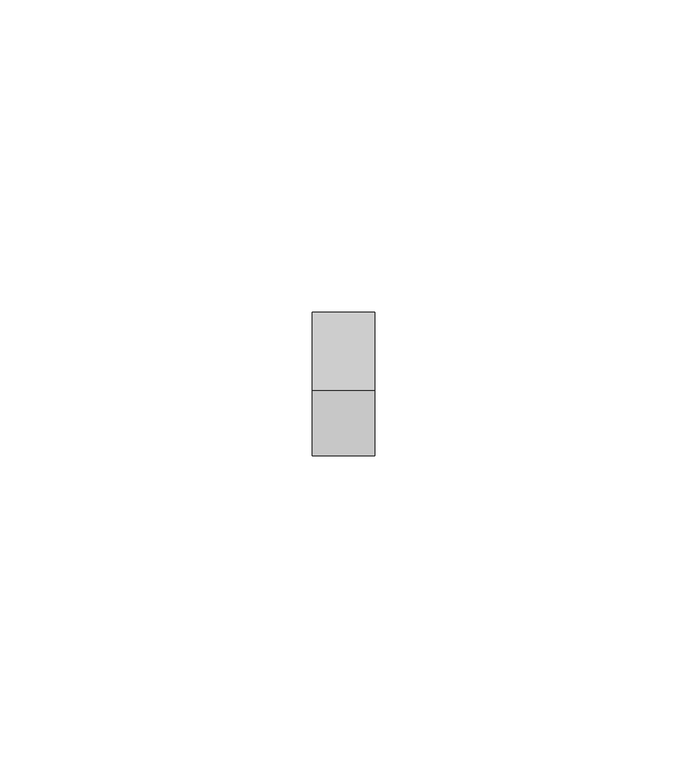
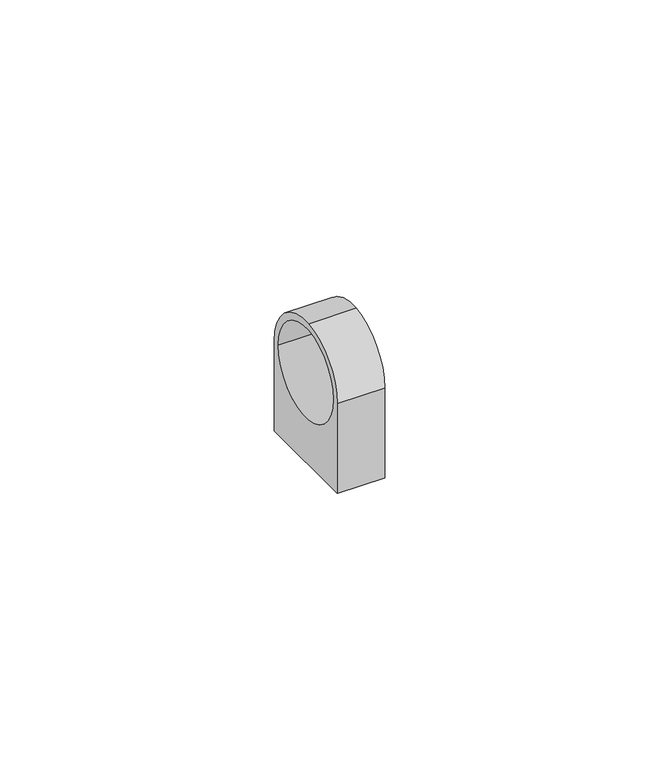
"""IFC4 building model written with IfcOpenShell, lengths in millimetres: cable carrier fitting geometry, Хомутный держатель CFC : CTA10D-CFC20-K41-100."""

from ifc_helpers import new_model, si_unit, point, frame, origin, origin_2d, place, context, project, spatial, polyline, circle_curve, trimmed, segment, composite_curve, outline, extrude, source, transform, mapped, element, save


def cable_carrier_fitting_1851c7ee(model_context):
    return source(origin(), model_context, "Body", "SweptSolid", [
        extrude(outline(composite_curve([segment(polyline([(-11.5, -20.0), (-11.5, 0.0)]), True, "CONTINUOUS"), segment(trimmed(circle_curve(origin_2d(), 11.5), [point((-11.5, 0.0))], [point((-1.0483988, 11.4521116))], False, "CARTESIAN"), True, "CONTINUOUS"), segment(trimmed(circle_curve(origin_2d(), 11.5), [point((-1.0483988, 11.4521116))], [point((11.5, 0.0))], False, "CARTESIAN"), True, "CONTINUOUS"), segment(polyline([(11.5, 0.0), (11.5, -20.0), (-11.5, -20.0)]), True, "CONTINUOUS")], self_intersect=False), holes=[composite_curve([segment(trimmed(circle_curve(origin_2d(), 10.0), [point((-10.0, 0.0))], [point((10.0, 0.0))], True, "CARTESIAN"), True, "CONTINUOUS"), segment(trimmed(circle_curve(origin_2d(), 10.0), [point((10.0, 0.0))], [point((-10.0, 0.0))], True, "CARTESIAN"), True, "CONTINUOUS")], self_intersect=False)]), frame((-5.0, 0.0, 0.0), z_axis=(1.0, 0.0, 0.0), x_axis=(0.0, 1.0, 0.0)), (0.0, 0.0, 1.0), 10.0),
    ])


if __name__ == "__main__":
    model = new_model("IFC4")
    model_context = context("Model", 3, world=origin())
    ifc_project = project(units=[si_unit("LENGTHUNIT", "METRE", prefix="MILLI")], contexts=[model_context])
    site = spatial("IfcSite", under=ifc_project)
    building = spatial("IfcBuilding", under=site)
    placement = place(None, origin())
    cable_carrier_fitting_shape = cable_carrier_fitting_1851c7ee(model_context)
    element("IfcCableCarrierFitting", 1, ObjectType="Хомутный держатель CFC : CTA10D-CFC20-K41-100", at=placement, inside=building, context=model_context, shape_type="MappedRepresentation", body=[
        mapped(cable_carrier_fitting_shape, transform((0.0, 0.0, 0.0), x_axis=(1.0, 0.0, 0.0), y_axis=(0.0, 1.0, 0.0), z_axis=(0.0, 0.0, 1.0))),
    ])
    save(model, "model.ifc")
